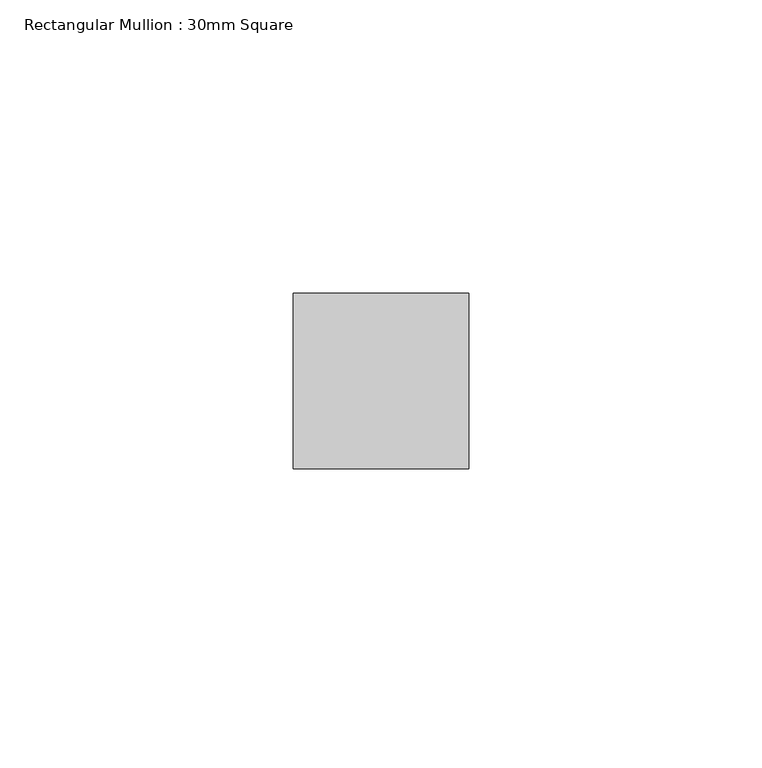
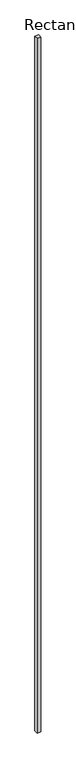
"""IFC4 building model written with IfcOpenShell, lengths in millimetres: member geometry, Rectangular Mullion : 30mm Square."""

from ifc_helpers import new_model, si_unit, frame, origin, place, context, project, spatial, polyline, outline, extrude, source, transform, mapped, element, save


def rectangular_mullion_30mm_square_7a787dcd(model_context):
    return source(origin(), model_context, "Body", "SweptSolid", [
        extrude(outline(polyline([(0.0, 15.0), (0.0, -15.0), (-30.0, -15.0), (-30.0, 15.0), (0.0, 15.0)])), frame((0.0, 0.0, -5867.3639452), z_axis=(0.0, 0.0, 1.0), x_axis=(1.0, 0.0, 0.0)), (0.0, 0.0, 1.0), 5867.3639452),
    ])


if __name__ == "__main__":
    model = new_model("IFC4")
    model_context = context("Model", 3, world=origin())
    ifc_project = project(units=[si_unit("LENGTHUNIT", "METRE", prefix="MILLI")], contexts=[model_context])
    site = spatial("IfcSite", under=ifc_project)
    building = spatial("IfcBuilding", under=site)
    placement = place(None, origin())
    rectangular_mullion_30mm_square_shape = rectangular_mullion_30mm_square_7a787dcd(model_context)
    element("IfcMember", 1, ObjectType="Rectangular Mullion : 30mm Square", at=placement, inside=building, context=model_context, shape_type="MappedRepresentation", body=[
        mapped(rectangular_mullion_30mm_square_shape, transform((0.0, 0.0, 0.0), x_axis=(1.0, 0.0, 0.0), y_axis=(0.0, 1.0, 0.0), z_axis=(0.0, 0.0, 1.0))),
    ])
    save(model, "model.ifc")
